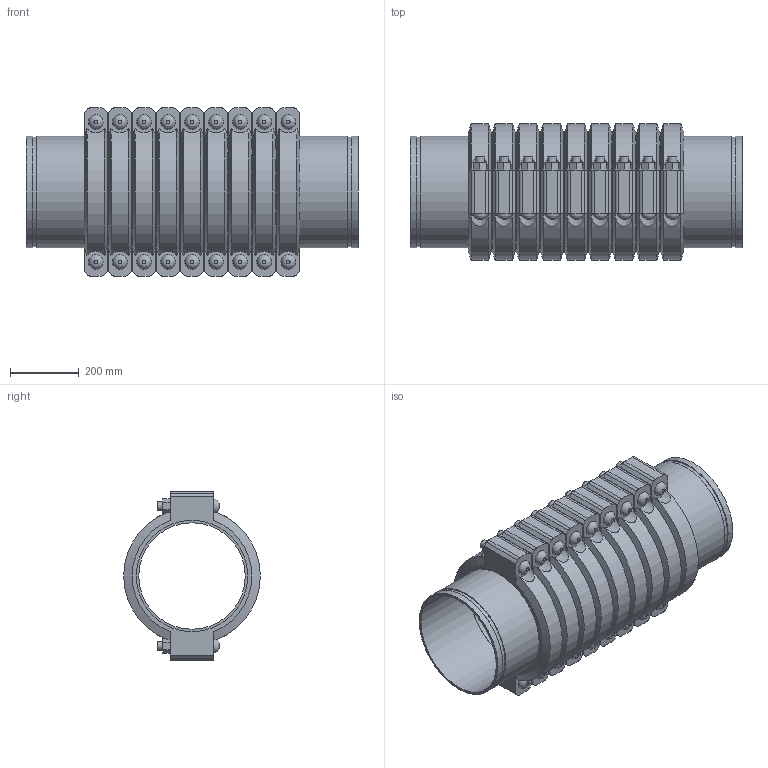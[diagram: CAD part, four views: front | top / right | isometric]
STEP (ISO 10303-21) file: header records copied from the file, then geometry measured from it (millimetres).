
FILE_DESCRIPTION(/* description */ ('VIC EXPANSION JOINT 9 COUPLINGS COMPRESSED STYLE 155 (OGS)','CAx-IF Rec.Pracs.---Representation and Presentation of Product Manufacturing Information (PMI)---4.0---2014-10-13'),/* implementation_level */ '2;1');
FILE_NAME(/* name */ 'C:\Users\kkamble\AppData\Roaming\Autodesk\ApplicationPlugins\Victaulic.Temp\A901\Victaulic_IPS_Expansion Joint_Compressed_9 Couplings_Style 155 (OGS)_12 (300).stp',/* time_stamp */ '2021-06-27T00:39:06+02:00',/* author */ ('kkamble'),/* organization */ ('Victaulic'),/* preprocessor_version */ 'ST-DEVELOPER v17.2',/* originating_system */ 'Autodesk Inventor 2019',/* authorisation */ '');
FILE_SCHEMA (('AP242_MANAGED_MODEL_BASED_3D_ENGINEERING_MIM_LF { 1 0 10303 442 1 1 4 }'));
Length unit declared in the file: inch
Products named in the file (4): 155-12.0; Nipple-12.0; Nipple-12.0_1; 077-9 Coup-12.0
Assembly tree (19 placements, depth 2):
  155-12.0
    Nipple-12.0  x2
    Nipple-12.0_1  x8
    077-9 Coup-12.0  x9
Bounding box: 965.2 x 397 x 488.95 mm (x, y, z)
Volume: 36621276.7 mm3; surface area: 4955119.8 mm2
Topology: 19 solids, 37 shells, 633 faces, 1551 edges, 1086 vertices
Faces by surface type: plane 366, cylinder 213, cone 36, bspline 18
Full cylindrical faces by diameter (mm): 25.4 x36, 27.432 x18, 309.677 x10, 318.287 x20, 323.85 x39
Entity records: 3027 total; most frequent: CARTESIAN_POINT 653, DIRECTION 475, ORIENTED_EDGE 398, EDGE_CURVE 199, AXIS2_PLACEMENT_3D 194, VERTEX_POINT 142, EDGE_LOOP 105, CIRCLE 92
